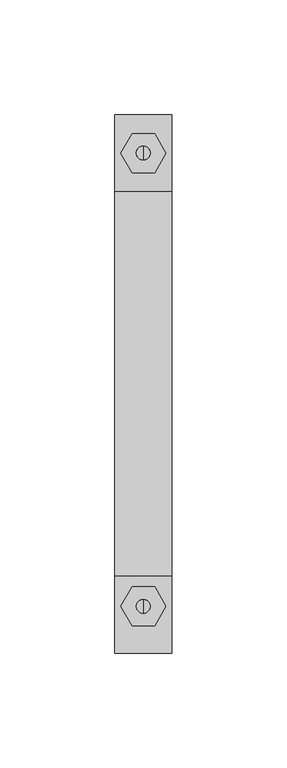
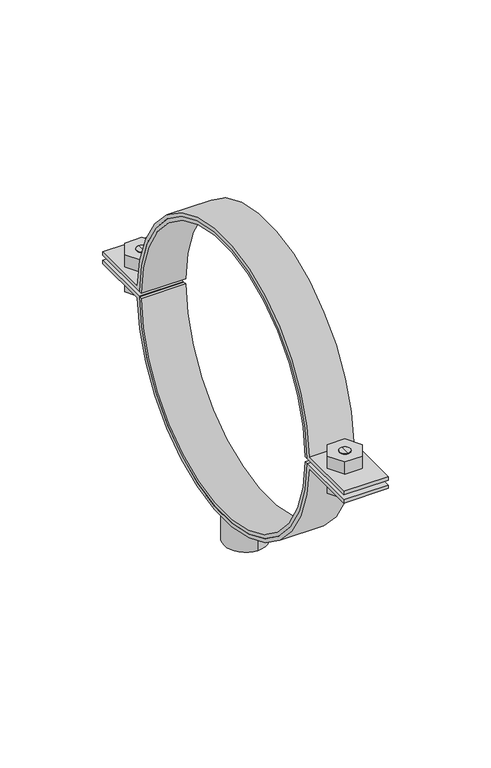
"""IFC4 building model written with IfcOpenShell, lengths in millimetres: valve geometry, Superfix DG2 Clamp Extra (based on pipe) : Superfix DG2 Clamp Extra (based on pipe)."""

from ifc_helpers import new_model, si_unit, point, frame, frame_2d, origin, origin_2d, place, context, project, spatial, polyline, circle_curve, trimmed, segment, composite_curve, outline, extrude, source, transform, mapped, element, save
from ifc_brep_helpers import plane_surface, cylinder_surface, advanced_brep


def valve_dc8f52aa(model_context):
    return source(origin(), model_context, "Body", "SolidModel", [
        advanced_brep(
        [(0.0, 103.75, 342.4002332), (0.0, 97.75, 342.4002332), (0.0, 97.75, 357.0002332), (0.0, 103.75, 357.0002332), (0.0, 100.75, 342.4002332)],
        [
            (0, 1, circle_curve(frame((0.0, 100.75, 342.4002332), z_axis=(0.0, 0.0, 1.0), x_axis=(0.0, 1.0, 0.0)), 3.0)),
            (1, 2),
            (2, 3, circle_curve(frame((0.0, 100.75, 357.0002332), z_axis=(0.0, 0.0, -1.0), x_axis=(0.0, 1.0, 0.0)), 3.0)),
            (3, 0),
            (1, 0, circle_curve(frame((0.0, 100.75, 342.4002332), z_axis=(0.0, 0.0, 1.0), x_axis=(0.0, 1.0, 0.0)), 3.0)),
            (3, 2, circle_curve(frame((0.0, 100.75, 357.0002332), z_axis=(0.0, 0.0, -1.0), x_axis=(0.0, 1.0, 0.0)), 3.0)),
            (0, 4),
            (4, 1),
        ],
        [
            cylinder_surface(frame((0.0, 100.75, 356.7808426), z_axis=(0.0, 0.0, 1.0), x_axis=(0.0, 1.0, 0.0)), 3.0),
            plane_surface(frame((0.0, 100.75, 342.4002332), z_axis=(0.0, 0.0, -1.0), x_axis=(0.0, 1.0, 0.0))),
            plane_surface(frame((13.75, -117.5, 357.0002332), z_axis=(0.0, 0.0, 1.0), x_axis=(-1.0, 0.0, 0.0))),
        ],
        [
            (0, [[1, 2, 3, 4]]),
            (0, [[5, -4, 6, -2]]),
            (1, [[-1, 7, 8]]),
            (1, [[-5, -8, -7]]),
            (2, [[-3, -6]]),
        ],
    ),
        advanced_brep(
        [(0.0, 97.75, 369.6002332), (0.0, 103.75, 369.6002332), (0.0, 103.75, 360.0002332), (0.0, 97.75, 360.0002332), (0.0, 100.75, 369.6002332)],
        [
            (0, 1, circle_curve(frame((0.0, 100.75, 369.6002332), z_axis=(0.0, 0.0, -1.0), x_axis=(0.0, 1.0, 0.0)), 3.0)),
            (1, 2),
            (2, 3, circle_curve(frame((0.0, 100.75, 360.0002332), z_axis=(0.0, 0.0, 1.0), x_axis=(0.0, 1.0, 0.0)), 3.0)),
            (3, 0),
            (1, 0, circle_curve(frame((0.0, 100.75, 369.6002332), z_axis=(0.0, 0.0, -1.0), x_axis=(0.0, 1.0, 0.0)), 3.0)),
            (3, 2, circle_curve(frame((0.0, 100.75, 360.0002332), z_axis=(0.0, 0.0, 1.0), x_axis=(0.0, 1.0, 0.0)), 3.0)),
            (0, 4),
            (4, 1),
        ],
        [
            cylinder_surface(frame((0.0, 100.75, 356.7808426), z_axis=(0.0, 0.0, 1.0), x_axis=(0.0, 1.0, 0.0)), 3.0),
            plane_surface(frame((0.0, 100.75, 369.6002332), z_axis=(0.0, 0.0, 1.0), x_axis=(0.0, 1.0, 0.0))),
            plane_surface(frame((13.75, 117.5, 360.0002332), z_axis=(0.0, 0.0, -1.0), x_axis=(-1.0, 0.0, 0.0))),
        ],
        [
            (0, [[1, 2, 3, 4]]),
            (0, [[5, -4, 6, -2]]),
            (1, [[-1, 7, 8]]),
            (1, [[-5, -8, -7]]),
            (2, [[-3, -6]]),
        ],
    ),
        advanced_brep(
        [(0.0, -100.0, 369.6002332), (0.0, -94.0, 369.6002332), (0.0, -94.0, 360.0002332), (0.0, -100.0, 360.0002332), (0.0, -97.0, 369.6002332)],
        [
            (0, 1, circle_curve(frame((0.0, -97.0, 369.6002332), z_axis=(0.0, 0.0, -1.0), x_axis=(0.0, -1.0, 0.0)), 3.0)),
            (1, 2),
            (2, 3, circle_curve(frame((0.0, -97.0, 360.0002332), z_axis=(0.0, 0.0, 1.0), x_axis=(0.0, -1.0, 0.0)), 3.0)),
            (3, 0),
            (1, 0, circle_curve(frame((0.0, -97.0, 369.6002332), z_axis=(0.0, 0.0, -1.0), x_axis=(0.0, -1.0, 0.0)), 3.0)),
            (3, 2, circle_curve(frame((0.0, -97.0, 360.0002332), z_axis=(0.0, 0.0, 1.0), x_axis=(0.0, -1.0, 0.0)), 3.0)),
            (0, 4),
            (4, 1),
        ],
        [
            cylinder_surface(frame((0.0, -97.0, 356.7808426), z_axis=(0.0, 0.0, -1.0), x_axis=(0.0, -1.0, 0.0)), 3.0),
            plane_surface(frame((0.0, -97.0, 369.6002332), z_axis=(0.0, 0.0, 1.0), x_axis=(0.0, -1.0, 0.0))),
            plane_surface(frame((13.75, 117.5, 360.0002332), z_axis=(0.0, 0.0, -1.0), x_axis=(-1.0, 0.0, 0.0))),
        ],
        [
            (0, [[1, 2, 3, 4]]),
            (0, [[5, -4, 6, -2]]),
            (1, [[-1, 7, 8]]),
            (1, [[-5, -8, -7]]),
            (2, [[-3, -6]]),
        ],
    ),
        advanced_brep(
        [(0.0, -94.0, 342.4002332), (0.0, -100.0, 342.4002332), (0.0, -100.0, 357.0002332), (0.0, -94.0, 357.0002332), (0.0, -97.0, 342.4002332)],
        [
            (0, 1, circle_curve(frame((0.0, -97.0, 342.4002332), z_axis=(0.0, 0.0, 1.0), x_axis=(0.0, -1.0, 0.0)), 3.0)),
            (1, 2),
            (2, 3, circle_curve(frame((0.0, -97.0, 357.0002332), z_axis=(0.0, 0.0, -1.0), x_axis=(0.0, -1.0, 0.0)), 3.0)),
            (3, 0),
            (1, 0, circle_curve(frame((0.0, -97.0, 342.4002332), z_axis=(0.0, 0.0, 1.0), x_axis=(0.0, -1.0, 0.0)), 3.0)),
            (3, 2, circle_curve(frame((0.0, -97.0, 357.0002332), z_axis=(0.0, 0.0, -1.0), x_axis=(0.0, -1.0, 0.0)), 3.0)),
            (0, 4),
            (4, 1),
        ],
        [
            cylinder_surface(frame((0.0, -97.0, 356.7808426), z_axis=(0.0, 0.0, -1.0), x_axis=(0.0, -1.0, 0.0)), 3.0),
            plane_surface(frame((0.0, -97.0, 342.4002332), z_axis=(0.0, 0.0, -1.0), x_axis=(0.0, -1.0, 0.0))),
            plane_surface(frame((13.75, -117.5, 357.0002332), z_axis=(0.0, 0.0, 1.0), x_axis=(-1.0, 0.0, 0.0))),
        ],
        [
            (0, [[1, 2, 3, 4]]),
            (0, [[5, -4, 6, -2]]),
            (1, [[-1, 7, 8]]),
            (1, [[-5, -8, -7]]),
            (2, [[-3, -6]]),
        ],
    ),
        extrude(outline(composite_curve([segment(trimmed(circle_curve(frame_2d((0.0, 358.5002332)), 82.0), [point((-81.9862793, 357.0002332))], [point((81.9862793, 357.0002332))], True, "CARTESIAN"), True, "CONTINUOUS"), segment(polyline([(81.9862793, 357.0002332), (117.5, 357.0002332), (117.5, 355.0002332), (83.9270517, 355.0002332)]), True, "CONTINUOUS"), segment(trimmed(circle_curve(frame_2d((0.0, 358.5002332)), 84.0), [point((83.9270517, 355.0002332))], [point((-83.9270517, 355.0002332))], False, "CARTESIAN"), True, "CONTINUOUS"), segment(polyline([(-83.9270517, 355.0002332), (-117.5, 355.0002332), (-117.5, 357.0002332), (-81.9862793, 357.0002332)]), True, "CONTINUOUS")], self_intersect=False)), frame((-12.5, 0.0, 0.0), z_axis=(1.0, 0.0, 0.0), x_axis=(0.0, 1.0, 0.0)), (0.0, 0.0, 1.0), 25.0),
        extrude(outline(composite_curve([segment(trimmed(circle_curve(frame_2d((0.0, 358.5002332)), 82.0), [point((81.9862793, 360.0002332))], [point((-81.9862793, 360.0002332))], True, "CARTESIAN"), True, "CONTINUOUS"), segment(polyline([(-81.9862793, 360.0002332), (-117.5, 360.0002332), (-117.5, 362.0002332), (-83.9270517, 362.0002332)]), True, "CONTINUOUS"), segment(trimmed(circle_curve(frame_2d((0.0, 358.5002332)), 84.0), [point((-83.9270517, 362.0002332))], [point((83.9270517, 362.0002332))], False, "CARTESIAN"), True, "CONTINUOUS"), segment(polyline([(83.9270517, 362.0002332), (117.5, 362.0002332), (117.5, 360.0002332), (81.9862793, 360.0002332)]), True, "CONTINUOUS")], self_intersect=False)), frame((-12.5, 0.0, 0.0), z_axis=(1.0, 0.0, 0.0), x_axis=(0.0, 1.0, 0.0)), (0.0, 0.0, 1.0), 25.0),
        extrude(outline(polyline([(9.8149546, -97.0), (4.9074773, -105.5), (-4.9074773, -105.5), (-9.8149546, -97.0), (-4.9074773, -88.5), (4.9074773, -88.5), (9.8149546, -97.0)]), holes=[composite_curve([segment(trimmed(circle_curve(frame_2d((0.0, -97.0)), 3.0), [point((3.0, -97.0))], [point((-3.0, -97.0))], True, "CARTESIAN"), True, "CONTINUOUS"), segment(trimmed(circle_curve(frame_2d((0.0, -97.0)), 3.0), [point((-3.0, -97.0))], [point((3.0, -97.0))], True, "CARTESIAN"), True, "CONTINUOUS")], self_intersect=False)]), frame((0.0, 0.0, 362.0002332), z_axis=(0.0, 0.0, 1.0), x_axis=(1.0, 0.0, 0.0)), (0.0, 0.0, 1.0), 7.6),
        extrude(outline(polyline([(9.8149546, 100.75), (4.9074773, 92.25), (-4.9074773, 92.25), (-9.8149546, 100.75), (-4.9074773, 109.25), (4.9074773, 109.25), (9.8149546, 100.75)]), holes=[composite_curve([segment(trimmed(circle_curve(frame_2d((0.0, 100.75)), 3.0), [point((3.0, 100.75))], [point((-3.0, 100.75))], True, "CARTESIAN"), True, "CONTINUOUS"), segment(trimmed(circle_curve(frame_2d((0.0, 100.75)), 3.0), [point((-3.0, 100.75))], [point((3.0, 100.75))], True, "CARTESIAN"), True, "CONTINUOUS")], self_intersect=False)]), frame((0.0, 0.0, 362.0002332), z_axis=(0.0, 0.0, 1.0), x_axis=(1.0, 0.0, 0.0)), (0.0, 0.0, 1.0), 7.6),
        extrude(outline(polyline([(9.8149546, -97.0), (4.9074773, -105.5), (-4.9074773, -105.5), (-9.8149546, -97.0), (-4.9074773, -88.5), (4.9074773, -88.5), (9.8149546, -97.0)]), holes=[composite_curve([segment(trimmed(circle_curve(frame_2d((0.0, -97.0)), 3.0), [point((3.0, -97.0))], [point((-3.0, -97.0))], True, "CARTESIAN"), True, "CONTINUOUS"), segment(trimmed(circle_curve(frame_2d((0.0, -97.0)), 3.0), [point((-3.0, -97.0))], [point((3.0, -97.0))], True, "CARTESIAN"), True, "CONTINUOUS")], self_intersect=False)]), frame((0.0, 0.0, 347.4002332), z_axis=(0.0, 0.0, 1.0), x_axis=(1.0, 0.0, 0.0)), (0.0, 0.0, 1.0), 7.6),
        extrude(outline(polyline([(9.8149546, 100.75), (4.9074773, 92.25), (-4.9074773, 92.25), (-9.8149546, 100.75), (-4.9074773, 109.25), (4.9074773, 109.25), (9.8149546, 100.75)]), holes=[composite_curve([segment(trimmed(circle_curve(frame_2d((0.0, 100.75)), 3.0), [point((3.0, 100.75))], [point((-3.0, 100.75))], True, "CARTESIAN"), True, "CONTINUOUS"), segment(trimmed(circle_curve(frame_2d((0.0, 100.75)), 3.0), [point((-3.0, 100.75))], [point((3.0, 100.75))], True, "CARTESIAN"), True, "CONTINUOUS")], self_intersect=False)]), frame((0.0, 0.0, 347.4002332), z_axis=(0.0, 0.0, 1.0), x_axis=(1.0, 0.0, 0.0)), (0.0, 0.0, 1.0), 7.6),
        extrude(outline(composite_curve([segment(trimmed(circle_curve(origin_2d(), 12.0), [point((0.0, 12.0))], [point((0.0, -12.0))], False, "CARTESIAN"), True, "CONTINUOUS"), segment(trimmed(circle_curve(origin_2d(), 12.0), [point((0.0, -12.0))], [point((0.0, 12.0))], False, "CARTESIAN"), True, "CONTINUOUS")], self_intersect=False), holes=[composite_curve([segment(trimmed(circle_curve(origin_2d(), 8.0), [point((0.0, 8.0))], [point((0.0, -8.0))], True, "CARTESIAN"), True, "CONTINUOUS"), segment(trimmed(circle_curve(origin_2d(), 8.0), [point((0.0, -8.0))], [point((0.0, 8.0))], True, "CARTESIAN"), True, "CONTINUOUS")], self_intersect=False)]), frame((0.0, 0.0, 258.5002332), z_axis=(0.0, 0.0, 1.0), x_axis=(1.0, 0.0, 0.0)), (0.0, 0.0, 1.0), 18.0),
        extrude(outline(composite_curve([segment(trimmed(circle_curve(frame_2d((0.0, 358.5002332)), 80.0), [point((79.9859363, 360.0002332))], [point((-79.9859363, 360.0002332))], True, "CARTESIAN"), True, "CONTINUOUS"), segment(polyline([(-79.9859363, 360.0002332), (-81.9862793, 360.0002332)]), True, "CONTINUOUS"), segment(trimmed(circle_curve(frame_2d((0.0, 358.5002332)), 82.0), [point((-81.9862793, 360.0002332))], [point((81.9862793, 360.0002332))], False, "CARTESIAN"), True, "CONTINUOUS"), segment(polyline([(81.9862793, 360.0002332), (79.9859363, 360.0002332)]), True, "CONTINUOUS")], self_intersect=False)), frame((-12.5, 0.0, 0.0), z_axis=(1.0, 0.0, 0.0), x_axis=(0.0, 1.0, 0.0)), (0.0, 0.0, 1.0), 25.0),
        extrude(outline(composite_curve([segment(polyline([(79.9859363, 357.0002332), (81.9862793, 357.0002332)]), True, "CONTINUOUS"), segment(trimmed(circle_curve(frame_2d((0.0, 358.5002332)), 82.0), [point((81.9862793, 357.0002332))], [point((-81.9862793, 357.0002332))], False, "CARTESIAN"), True, "CONTINUOUS"), segment(polyline([(-81.9862793, 357.0002332), (-79.9859363, 357.0002332)]), True, "CONTINUOUS"), segment(trimmed(circle_curve(frame_2d((0.0, 358.5002332)), 80.0), [point((-79.9859363, 357.0002332))], [point((79.9859363, 357.0002332))], True, "CARTESIAN"), True, "CONTINUOUS")], self_intersect=False)), frame((-12.5, 0.0, 0.0), z_axis=(1.0, 0.0, 0.0), x_axis=(0.0, 1.0, 0.0)), (0.0, 0.0, 1.0), 25.0),
    ])


if __name__ == "__main__":
    model = new_model("IFC4")
    model_context = context("Model", 3, world=origin())
    ifc_project = project(units=[si_unit("LENGTHUNIT", "METRE", prefix="MILLI")], contexts=[model_context])
    site = spatial("IfcSite", under=ifc_project)
    building = spatial("IfcBuilding", under=site)
    placement = place(None, origin())
    valve_shape = valve_dc8f52aa(model_context)
    element("IfcValve", 1, ObjectType="Superfix DG2 Clamp Extra (based on pipe) : Superfix DG2 Clamp Extra (based on pipe)", at=placement, inside=building, context=model_context, shape_type="MappedRepresentation", body=[
        mapped(valve_shape, transform((0.0, 0.0, 0.0), x_axis=(1.0, 0.0, 0.0), y_axis=(0.0, 1.0, 0.0), z_axis=(0.0, 0.0, 1.0))),
    ])
    save(model, "model.ifc")
